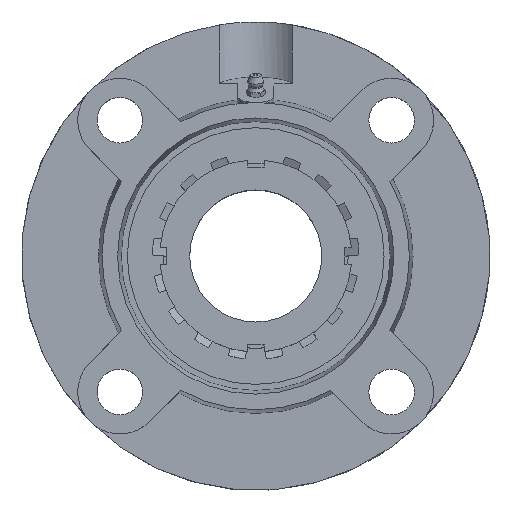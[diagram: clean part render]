
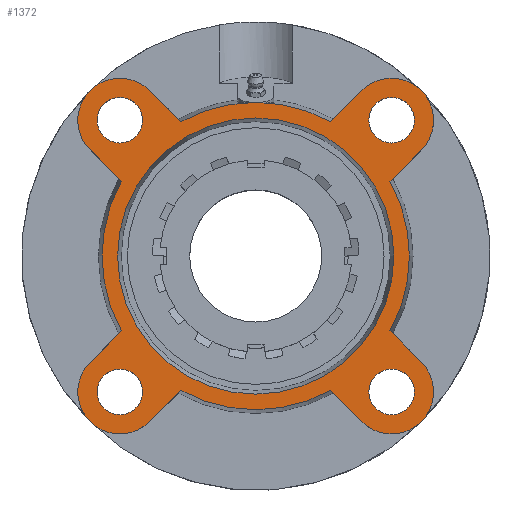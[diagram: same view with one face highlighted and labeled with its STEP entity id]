
A CAD part, top view. The second image highlights one B-rep face of the part: STEP entity #1372.
In plain terms, the highlighted planar face has unit normal (0, 0, 1).
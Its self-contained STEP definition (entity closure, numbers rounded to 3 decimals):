
#181=CARTESIAN_POINT('',(-47.069,-56.569,22.));
#182=VERTEX_POINT('',#181);
#183=CARTESIAN_POINT('',(-56.569,-56.569,22.));
#184=DIRECTION('',(0.0,0.0,-1.0));
#185=DIRECTION('',(1.0,0.0,0.0));
#186=AXIS2_PLACEMENT_3D('',#183,#184,#185);
#187=CIRCLE('',#186,9.5);
#188=EDGE_CURVE('',#182,#182,#187,.T.);
#209=CARTESIAN_POINT('',(-47.069,56.569,22.));
#210=VERTEX_POINT('',#209);
#211=CARTESIAN_POINT('',(-56.569,56.569,22.));
#212=DIRECTION('',(0.0,0.0,-1.0));
#213=DIRECTION('',(1.0,0.0,0.0));
#214=AXIS2_PLACEMENT_3D('',#211,#212,#213);
#215=CIRCLE('',#214,9.5);
#216=EDGE_CURVE('',#210,#210,#215,.T.);
#237=CARTESIAN_POINT('',(66.069,56.569,22.));
#238=VERTEX_POINT('',#237);
#239=CARTESIAN_POINT('',(56.569,56.569,22.));
#240=DIRECTION('',(0.0,0.0,-1.0));
#241=DIRECTION('',(1.0,0.0,0.0));
#242=AXIS2_PLACEMENT_3D('',#239,#240,#241);
#243=CIRCLE('',#242,9.5);
#244=EDGE_CURVE('',#238,#238,#243,.T.);
#265=CARTESIAN_POINT('',(66.069,-56.569,22.));
#266=VERTEX_POINT('',#265);
#267=CARTESIAN_POINT('',(56.569,-56.569,22.));
#268=DIRECTION('',(0.0,0.0,-1.0));
#269=DIRECTION('',(1.0,0.0,0.0));
#270=AXIS2_PLACEMENT_3D('',#267,#268,#269);
#271=CIRCLE('',#270,9.5);
#272=EDGE_CURVE('',#266,#266,#271,.T.);
#373=CARTESIAN_POINT('',(0.0,57.5,22.));
#374=VERTEX_POINT('',#373);
#375=CARTESIAN_POINT('',(0.0,0.,22.));
#376=DIRECTION('',(0.0,0.0,-1.0));
#377=DIRECTION('',(0.0,1.0,0.0));
#378=AXIS2_PLACEMENT_3D('',#375,#376,#377);
#379=CIRCLE('',#378,57.5);
#380=EDGE_CURVE('',#374,#374,#379,.T.);
#670=CARTESIAN_POINT('',(0.,64.,22.0));
#671=VERTEX_POINT('',#670);
#828=CARTESIAN_POINT('',(-31.156,55.905,22.));
#829=VERTEX_POINT('',#828);
#843=CARTESIAN_POINT('',(0.0,0.,22.));
#844=DIRECTION('',(0.0,0.0,1.0));
#845=DIRECTION('',(0.0,-1.0,0.0));
#846=AXIS2_PLACEMENT_3D('',#843,#844,#845);
#847=CIRCLE('',#846,64.);
#848=EDGE_CURVE('',#671,#829,#847,.T.);
#858=CARTESIAN_POINT('',(-31.156,-55.905,22.));
#859=VERTEX_POINT('',#858);
#875=CARTESIAN_POINT('',(-44.194,-68.943,22.));
#876=VERTEX_POINT('',#875);
#877=CARTESIAN_POINT('',(-31.156,-55.905,22.));
#878=DIRECTION('',(-0.707,-0.707,0.));
#879=VECTOR('',#878,18.439);
#880=LINE('',#877,#879);
#881=EDGE_CURVE('',#859,#876,#880,.T.);
#905=CARTESIAN_POINT('',(-55.905,31.156,22.));
#906=VERTEX_POINT('',#905);
#922=CARTESIAN_POINT('',(-68.943,44.194,22.));
#923=VERTEX_POINT('',#922);
#924=CARTESIAN_POINT('',(-55.905,31.156,22.));
#925=DIRECTION('',(-0.707,0.707,0.));
#926=VECTOR('',#925,18.439);
#927=LINE('',#924,#926);
#928=EDGE_CURVE('',#906,#923,#927,.T.);
#952=CARTESIAN_POINT('',(55.905,-31.156,22.));
#953=VERTEX_POINT('',#952);
#969=CARTESIAN_POINT('',(68.943,-44.194,22.));
#970=VERTEX_POINT('',#969);
#971=CARTESIAN_POINT('',(55.905,-31.156,22.));
#972=DIRECTION('',(0.707,-0.707,0.));
#973=VECTOR('',#972,18.439);
#974=LINE('',#971,#973);
#975=EDGE_CURVE('',#953,#970,#974,.T.);
#999=CARTESIAN_POINT('',(31.156,55.905,22.));
#1000=VERTEX_POINT('',#999);
#1014=CARTESIAN_POINT('',(44.194,68.943,22.));
#1015=VERTEX_POINT('',#1014);
#1016=CARTESIAN_POINT('',(31.156,55.905,22.));
#1017=DIRECTION('',(0.707,0.707,0.));
#1018=VECTOR('',#1017,18.439);
#1019=LINE('',#1016,#1018);
#1020=EDGE_CURVE('',#1000,#1015,#1019,.T.);
#1039=CARTESIAN_POINT('',(55.905,31.156,22.));
#1040=VERTEX_POINT('',#1039);
#1062=CARTESIAN_POINT('',(68.943,44.194,22.));
#1063=VERTEX_POINT('',#1062);
#1070=CARTESIAN_POINT('',(68.943,44.194,22.));
#1071=DIRECTION('',(-0.707,-0.707,0.));
#1072=VECTOR('',#1071,18.439);
#1073=LINE('',#1070,#1072);
#1074=EDGE_CURVE('',#1063,#1040,#1073,.T.);
#1084=CARTESIAN_POINT('',(-68.943,-44.194,22.));
#1085=VERTEX_POINT('',#1084);
#1086=CARTESIAN_POINT('',(-56.569,-56.569,22.0));
#1087=DIRECTION('',(0.0,0.0,-1.0));
#1088=DIRECTION('',(-0.707,0.707,0.0));
#1089=AXIS2_PLACEMENT_3D('',#1086,#1087,#1088);
#1090=CIRCLE('',#1089,17.5);
#1091=EDGE_CURVE('',#876,#1085,#1090,.T.);
#1126=CARTESIAN_POINT('',(-55.905,-31.156,22.));
#1127=VERTEX_POINT('',#1126);
#1148=CARTESIAN_POINT('',(-68.943,-44.194,22.));
#1149=DIRECTION('',(0.707,0.707,0.));
#1150=VECTOR('',#1149,18.439);
#1151=LINE('',#1148,#1150);
#1152=EDGE_CURVE('',#1085,#1127,#1151,.T.);
#1162=CARTESIAN_POINT('',(-44.194,68.943,22.));
#1163=VERTEX_POINT('',#1162);
#1164=CARTESIAN_POINT('',(-56.569,56.569,22.0));
#1165=DIRECTION('',(0.0,0.0,-1.0));
#1166=DIRECTION('',(0.707,0.707,0.0));
#1167=AXIS2_PLACEMENT_3D('',#1164,#1165,#1166);
#1168=CIRCLE('',#1167,17.5);
#1169=EDGE_CURVE('',#923,#1163,#1168,.T.);
#1197=CARTESIAN_POINT('',(-44.194,68.943,22.));
#1198=DIRECTION('',(0.707,-0.707,0.));
#1199=VECTOR('',#1198,18.439);
#1200=LINE('',#1197,#1199);
#1201=EDGE_CURVE('',#1163,#829,#1200,.T.);
#1211=CARTESIAN_POINT('',(44.194,-68.943,22.));
#1212=VERTEX_POINT('',#1211);
#1213=CARTESIAN_POINT('',(56.569,-56.569,22.0));
#1214=DIRECTION('',(0.0,0.0,-1.0));
#1215=DIRECTION('',(-0.707,-0.707,0.0));
#1216=AXIS2_PLACEMENT_3D('',#1213,#1214,#1215);
#1217=CIRCLE('',#1216,17.5);
#1218=EDGE_CURVE('',#970,#1212,#1217,.T.);
#1253=CARTESIAN_POINT('',(31.156,-55.905,22.));
#1254=VERTEX_POINT('',#1253);
#1275=CARTESIAN_POINT('',(44.194,-68.943,22.));
#1276=DIRECTION('',(-0.707,0.707,0.));
#1277=VECTOR('',#1276,18.439);
#1278=LINE('',#1275,#1277);
#1279=EDGE_CURVE('',#1212,#1254,#1278,.T.);
#1289=CARTESIAN_POINT('',(56.569,56.569,22.0));
#1290=DIRECTION('',(0.0,0.0,-1.0));
#1291=DIRECTION('',(0.707,-0.707,0.0));
#1292=AXIS2_PLACEMENT_3D('',#1289,#1290,#1291);
#1293=CIRCLE('',#1292,17.5);
#1294=EDGE_CURVE('',#1015,#1063,#1293,.T.);
#1309=CARTESIAN_POINT('',(0.0,-32.0,22.));
#1310=DIRECTION('',(0.0,0.0,1.0));
#1311=DIRECTION('',(1.0,0.0,0.0));
#1312=AXIS2_PLACEMENT_3D('',#1309,#1310,#1311);
#1313=PLANE('',#1312);
#1314=CARTESIAN_POINT('',(0.0,0.,22.));
#1315=DIRECTION('',(0.0,0.0,1.0));
#1316=DIRECTION('',(0.0,-1.0,0.0));
#1317=AXIS2_PLACEMENT_3D('',#1314,#1315,#1316);
#1318=CIRCLE('',#1317,64.);
#1319=EDGE_CURVE('',#859,#1254,#1318,.T.);
#1320=ORIENTED_EDGE('',*,*,#1319,.T.);
#1321=ORIENTED_EDGE('',*,*,#1279,.F.);
#1322=ORIENTED_EDGE('',*,*,#1218,.F.);
#1323=ORIENTED_EDGE('',*,*,#975,.F.);
#1324=CARTESIAN_POINT('',(0.0,0.,22.));
#1325=DIRECTION('',(0.0,0.0,1.0));
#1326=DIRECTION('',(0.0,-1.0,0.0));
#1327=AXIS2_PLACEMENT_3D('',#1324,#1325,#1326);
#1328=CIRCLE('',#1327,64.);
#1329=EDGE_CURVE('',#953,#1040,#1328,.T.);
#1330=ORIENTED_EDGE('',*,*,#1329,.T.);
#1331=ORIENTED_EDGE('',*,*,#1074,.F.);
#1332=ORIENTED_EDGE('',*,*,#1294,.F.);
#1333=ORIENTED_EDGE('',*,*,#1020,.F.);
#1334=CARTESIAN_POINT('',(0.0,0.,22.));
#1335=DIRECTION('',(0.0,0.0,1.0));
#1336=DIRECTION('',(0.0,-1.0,0.0));
#1337=AXIS2_PLACEMENT_3D('',#1334,#1335,#1336);
#1338=CIRCLE('',#1337,64.);
#1339=EDGE_CURVE('',#1000,#671,#1338,.T.);
#1340=ORIENTED_EDGE('',*,*,#1339,.T.);
#1341=ORIENTED_EDGE('',*,*,#848,.T.);
#1342=ORIENTED_EDGE('',*,*,#1201,.F.);
#1343=ORIENTED_EDGE('',*,*,#1169,.F.);
#1344=ORIENTED_EDGE('',*,*,#928,.F.);
#1345=CARTESIAN_POINT('',(0.0,0.,22.));
#1346=DIRECTION('',(0.0,0.0,1.0));
#1347=DIRECTION('',(0.0,-1.0,0.0));
#1348=AXIS2_PLACEMENT_3D('',#1345,#1346,#1347);
#1349=CIRCLE('',#1348,64.);
#1350=EDGE_CURVE('',#906,#1127,#1349,.T.);
#1351=ORIENTED_EDGE('',*,*,#1350,.T.);
#1352=ORIENTED_EDGE('',*,*,#1152,.F.);
#1353=ORIENTED_EDGE('',*,*,#1091,.F.);
#1354=ORIENTED_EDGE('',*,*,#881,.F.);
#1355=EDGE_LOOP('',(#1320,#1321,#1322,#1323,#1330,#1331,#1332,#1333,#1340,#1341,#1342,#1343,#1344,#1351,#1352,#1353,#1354));
#1356=FACE_OUTER_BOUND('',#1355,.T.);
#1357=ORIENTED_EDGE('',*,*,#188,.T.);
#1358=EDGE_LOOP('',(#1357));
#1359=FACE_BOUND('',#1358,.T.);
#1360=ORIENTED_EDGE('',*,*,#216,.T.);
#1361=EDGE_LOOP('',(#1360));
#1362=FACE_BOUND('',#1361,.T.);
#1363=ORIENTED_EDGE('',*,*,#244,.T.);
#1364=EDGE_LOOP('',(#1363));
#1365=FACE_BOUND('',#1364,.T.);
#1366=ORIENTED_EDGE('',*,*,#272,.T.);
#1367=EDGE_LOOP('',(#1366));
#1368=FACE_BOUND('',#1367,.T.);
#1369=ORIENTED_EDGE('',*,*,#380,.T.);
#1370=EDGE_LOOP('',(#1369));
#1371=FACE_BOUND('',#1370,.T.);
#1372=ADVANCED_FACE('',(#1356,#1359,#1362,#1365,#1368,#1371),#1313,.T.);
